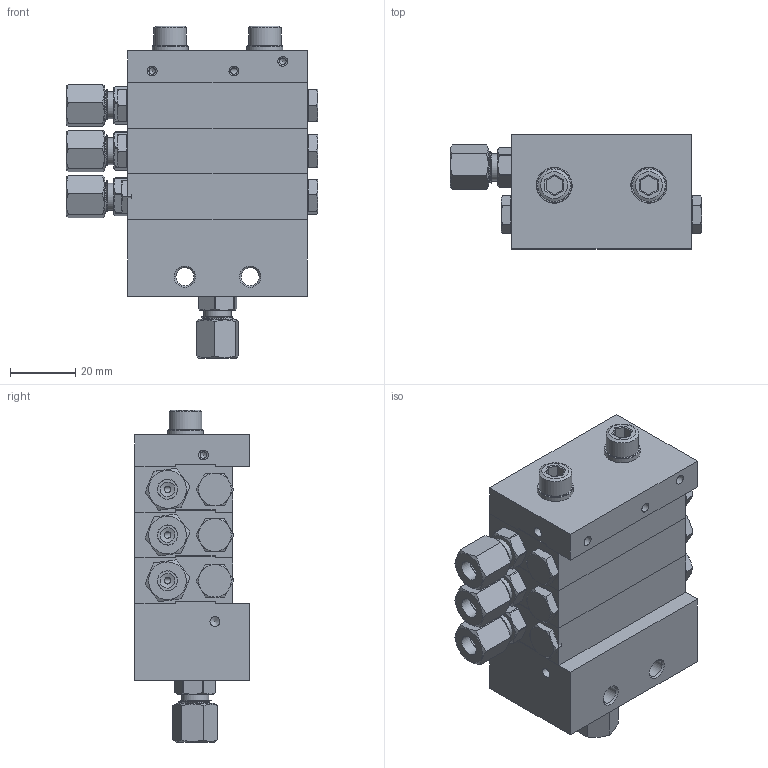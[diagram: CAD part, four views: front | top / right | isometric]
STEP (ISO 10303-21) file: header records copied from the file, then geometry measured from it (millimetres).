
FILE_DESCRIPTION (( 'STEP AP214' ), '1' );
FILE_NAME ('STW_XV_0143_03_050_3_Auslässe.STEP', '2026-01-28T14:06:38', ( '' ), ( '' ), 'SwSTEP 2.0', 'SolidWorks 2022', '' );
FILE_SCHEMA (( 'AUTOMOTIVE_DESIGN' ));
Length unit declared in the file: millimetre
Products named in the file (14): STW_XV_Kolbenanschlag; 991214010601_Mutter; 991214010601; STW_XV_END; M6X65_DIN_912; 991214010601_Schneidring; Verschlussstopfen_1_8_2; STW_XV_0143_03_050_3_Auslässe; STW_XV_MITTEL_1; STW_XV_ENGANG; 991214010601_Koerper; U_Scheibe_6; STW_XV_Verbindungsstopen; Verschlussstopfen_1_8
Assembly tree (34 placements, depth 3):
  STW_XV_0143_03_050_3_Auslässe
    STW_XV_ENGANG
    STW_XV_MITTEL_1  x3
    STW_XV_END
    Verschlussstopfen_1_8_2  x6
    STW_XV_Kolbenanschlag  x6
    STW_XV_Verbindungsstopen  x3
    M6X65_DIN_912  x2
    U_Scheibe_6  x2
    Verschlussstopfen_1_8  x3
    991214010601  x4
      991214010601_Koerper
      991214010601_Schneidring
      991214010601_Mutter
Bounding box: 77.13 x 35 x 101.68 mm (x, y, z)
Volume: 134499.3 mm3; surface area: 67002.2 mm2
Topology: 39 solids, 39 shells, 1401 faces, 3567 edges, 2286 vertices
Faces by surface type: plane 669, cylinder 369, cone 237, bspline 120, torus 6
Full cylindrical faces by diameter (mm): 2 x89, 3 x10, 4.5 x4, 5 x38, 5.5 x2, 5.9 x2, 6 x6, 6.2 x12, 6.4 x2, 6.5 x6, 7 x6, 7.4 x4, 7.67 x4, 8 x10, 8.3 x4, 8.4 x3, 8.6 x15, 9 x11, 9.7 x9, 9.73 x3, 9.8 x28, 10 x8, 11 x2, 15 x1
Entity records: 41312 total; most frequent: CARTESIAN_POINT 20621, ORIENTED_EDGE 2808, DIRECTION 2379, EDGE_CURVE 1404, VERTEX_POINT 997, EDGE_LOOP 925, AXIS2_PLACEMENT_3D 831, FACE_OUTER_BOUND 744
